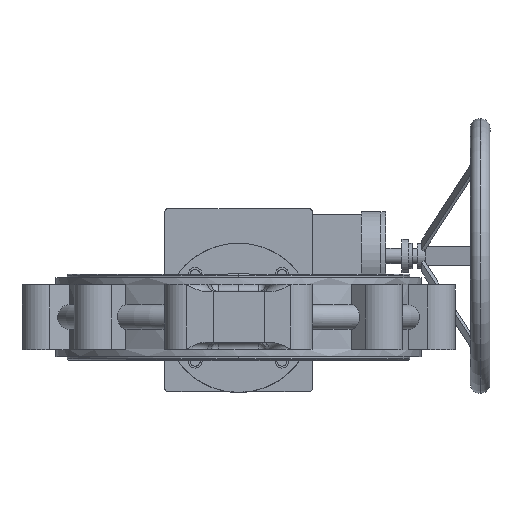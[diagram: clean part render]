
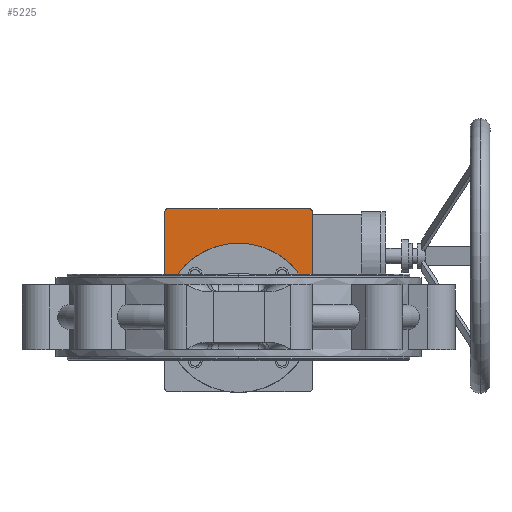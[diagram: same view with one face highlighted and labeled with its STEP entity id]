
A CAD part, top view. The second image highlights one B-rep face of the part: STEP entity #5225.
In plain terms, the highlighted planar face has unit normal (0, 0, 1) as drawn and (0, -1, 0) by its records, which use the part's own axes.
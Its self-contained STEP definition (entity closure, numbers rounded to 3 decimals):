
#71 = EDGE_CURVE ( 'NONE', #315, #6973, #1845, .T. ) ;
#154 = VECTOR ( 'NONE', #1021, 1000. ) ;
#315 = VERTEX_POINT ( 'NONE', #7567 ) ;
#928 = CIRCLE ( 'NONE', #6817, 76. ) ;
#1021 = DIRECTION ( 'NONE',  ( -1., 0., 0. ) ) ;
#1083 = CARTESIAN_POINT ( 'NONE',  ( 0., -68., 0. ) ) ;
#1592 = CARTESIAN_POINT ( 'NONE',  ( 72., -68., -90. ) ) ;
#1845 = LINE ( 'NONE', #2927, #7217 ) ;
#1916 = ORIENTED_EDGE ( 'NONE', *, *, #8889, .F. ) ;
#1956 = CIRCLE ( 'NONE', #4909, 3. ) ;
#1998 = DIRECTION ( 'NONE',  ( 0., -1., 0. ) ) ;
#2042 = CARTESIAN_POINT ( 'NONE',  ( -75., -68., -93. ) ) ;
#2831 = EDGE_CURVE ( 'NONE', #6973, #5203, #928, .T. ) ;
#2927 = CARTESIAN_POINT ( 'NONE',  ( -75., -68., -93. ) ) ;
#2981 = ORIENTED_EDGE ( 'NONE', *, *, #13659, .T. ) ;
#3518 = DIRECTION ( 'NONE',  ( 0., -1., 0. ) ) ;
#3594 = DIRECTION ( 'NONE',  ( 0., 0., -1. ) ) ;
#3665 = DIRECTION ( 'NONE',  ( 0., 0., 1. ) ) ;
#4165 = DIRECTION ( 'NONE',  ( 0., 1., 0. ) ) ;
#4259 = CARTESIAN_POINT ( 'NONE',  ( -72., -68., -93. ) ) ;
#4339 = DIRECTION ( 'NONE',  ( 0., 0., -1. ) ) ;
#4465 = VERTEX_POINT ( 'NONE', #10708 ) ;
#4703 = ORIENTED_EDGE ( 'NONE', *, *, #2831, .F. ) ;
#4715 = CARTESIAN_POINT ( 'NONE',  ( -75., -68., 5.712 ) ) ;
#4899 = ORIENTED_EDGE ( 'NONE', *, *, #7283, .F. ) ;
#4909 = AXIS2_PLACEMENT_3D ( 'NONE', #1592, #12352, #3665 ) ;
#5152 = CARTESIAN_POINT ( 'NONE',  ( 0., -68., -58. ) ) ;
#5203 = VERTEX_POINT ( 'NONE', #5152 ) ;
#5225 = ADVANCED_FACE ( 'NONE', ( #5292 ), #9813, .F. ) ;
#5292 = FACE_OUTER_BOUND ( 'NONE', #5689, .T. ) ;
#5401 = CARTESIAN_POINT ( 'NONE',  ( 75., -68., 5.712 ) ) ;
#5488 = DIRECTION ( 'NONE',  ( 0., -1., 0. ) ) ;
#5689 = EDGE_LOOP ( 'NONE', ( #11323, #2981, #1916, #9834, #7803, #4899, #4703 ) ) ;
#5825 = CIRCLE ( 'NONE', #8314, 3. ) ;
#6023 = AXIS2_PLACEMENT_3D ( 'NONE', #11112, #5488, #9735 ) ;
#6175 = DIRECTION ( 'NONE',  ( 0., 0., 1. ) ) ;
#6759 = VERTEX_POINT ( 'NONE', #13065 ) ;
#6817 = AXIS2_PLACEMENT_3D ( 'NONE', #8891, #3518, #3594 ) ;
#6973 = VERTEX_POINT ( 'NONE', #4715 ) ;
#7217 = VECTOR ( 'NONE', #6175, 1000. ) ;
#7283 = EDGE_CURVE ( 'NONE', #5203, #10129, #7601, .T. ) ;
#7444 = DIRECTION ( 'NONE',  ( 0., 0., 1. ) ) ;
#7567 = CARTESIAN_POINT ( 'NONE',  ( -75., -68., -90. ) ) ;
#7601 = CIRCLE ( 'NONE', #6023, 76. ) ;
#7803 = ORIENTED_EDGE ( 'NONE', *, *, #10294, .F. ) ;
#8314 = AXIS2_PLACEMENT_3D ( 'NONE', #10842, #1998, #7444 ) ;
#8889 = EDGE_CURVE ( 'NONE', #6759, #13922, #12600, .T. ) ;
#8891 = CARTESIAN_POINT ( 'NONE',  ( 0., -68., 18. ) ) ;
#9608 = DIRECTION ( 'NONE',  ( 0., 0., 1. ) ) ;
#9735 = DIRECTION ( 'NONE',  ( 0., 0., -1. ) ) ;
#9813 = PLANE ( 'NONE',  #11103 ) ;
#9834 = ORIENTED_EDGE ( 'NONE', *, *, #13043, .T. ) ;
#10129 = VERTEX_POINT ( 'NONE', #5401 ) ;
#10294 = EDGE_CURVE ( 'NONE', #10129, #4465, #13026, .T. ) ;
#10708 = CARTESIAN_POINT ( 'NONE',  ( 75., -68., -90. ) ) ;
#10842 = CARTESIAN_POINT ( 'NONE',  ( -72., -68., -90. ) ) ;
#11103 = AXIS2_PLACEMENT_3D ( 'NONE', #1083, #4165, #9608 ) ;
#11112 = CARTESIAN_POINT ( 'NONE',  ( 0., -68., 18. ) ) ;
#11323 = ORIENTED_EDGE ( 'NONE', *, *, #71, .F. ) ;
#12027 = CARTESIAN_POINT ( 'NONE',  ( 75., -68., -93. ) ) ;
#12352 = DIRECTION ( 'NONE',  ( 0., -1., 0. ) ) ;
#12600 = LINE ( 'NONE', #2042, #154 ) ;
#13026 = LINE ( 'NONE', #12027, #13062 ) ;
#13043 = EDGE_CURVE ( 'NONE', #6759, #4465, #1956, .T. ) ;
#13062 = VECTOR ( 'NONE', #4339, 1000. ) ;
#13065 = CARTESIAN_POINT ( 'NONE',  ( 72., -68., -93. ) ) ;
#13659 = EDGE_CURVE ( 'NONE', #315, #13922, #5825, .T. ) ;
#13922 = VERTEX_POINT ( 'NONE', #4259 ) ;
